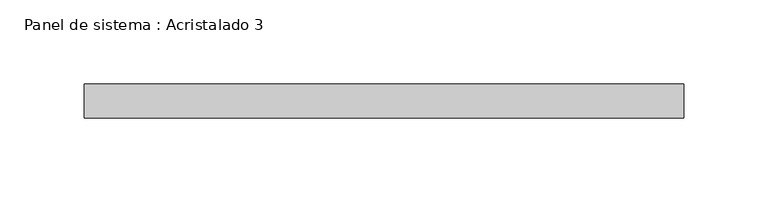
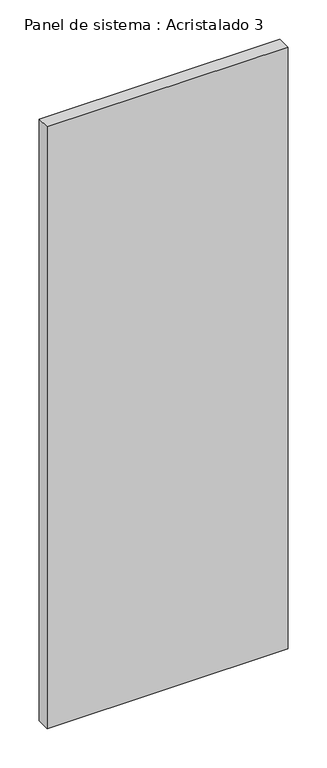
"""IFC4 building model written with IfcOpenShell, lengths in millimetres: plate geometry, Panel de sistema : Acristalado 3."""

from ifc_helpers import new_model, si_unit, origin, origin_with_axes, place, context, project, spatial, polyline, outline, extrude, source, transform, mapped, element, save


def panel_de_sistema_acristalado_3_a226284c(model_context):
    return source(origin(), model_context, "Body", "SweptSolid", [
        extrude(outline(polyline([(177.2831333, 90.0), (-177.2831333, 90.0), (-177.2831333, 110.0), (177.2831333, 110.0), (177.2831333, 90.0)])), origin_with_axes(), (0.0, 0.0, 1.0), 936.3914841),
    ])


if __name__ == "__main__":
    model = new_model("IFC4")
    model_context = context("Model", 3, world=origin())
    ifc_project = project(units=[si_unit("LENGTHUNIT", "METRE", prefix="MILLI")], contexts=[model_context])
    site = spatial("IfcSite", under=ifc_project)
    building = spatial("IfcBuilding", under=site)
    placement = place(None, origin())
    panel_de_sistema_acristalado_3_shape = panel_de_sistema_acristalado_3_a226284c(model_context)
    element("IfcPlate", 1, ObjectType="Panel de sistema : Acristalado 3", at=placement, inside=building, context=model_context, shape_type="MappedRepresentation", body=[
        mapped(panel_de_sistema_acristalado_3_shape, transform((0.0, 0.0, 0.0), x_axis=(1.0, 0.0, 0.0), y_axis=(0.0, 1.0, 0.0), z_axis=(0.0, 0.0, 1.0))),
    ])
    save(model, "model.ifc")
